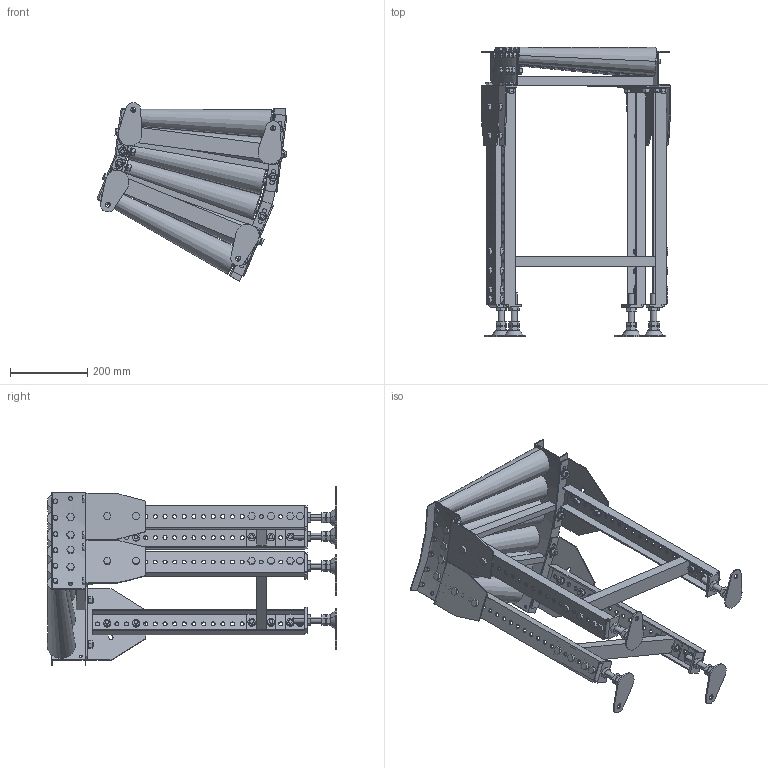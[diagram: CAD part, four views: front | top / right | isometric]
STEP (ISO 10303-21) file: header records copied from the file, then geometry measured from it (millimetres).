
FILE_DESCRIPTION (( 'STEP AP214' ), '1' );
FILE_NAME ('MRT-C5-350-50-30.STEP', '2022-09-27T09:14:28', ( '' ), ( '' ), 'SwSTEP 2.0', 'SolidWorks 2017', '' );
FILE_SCHEMA (( 'AUTOMOTIVE_DESIGN' ));
Length unit declared in the file: millimetre
Products named in the file (1): MRT-C5-350-50-30
Bounding box: 492.63 x 750 x 464.18 mm (x, y, z)
Volume: 8739801.1 mm3; surface area: 1603127.4 mm2
Topology: 19 solids, 41 shells, 1979 faces, 4730 edges, 2972 vertices
Faces by surface type: plane 1453, cylinder 506, cone 20
Entity records: 81801 total; most frequent: CARTESIAN_POINT 12570, DIRECTION 10106, ORIENTED_EDGE 9460, EDGE_CURVE 4730, AXIS2_PLACEMENT_3D 3496, VECTOR 3114, LINE 3114, VERTEX_POINT 2972
